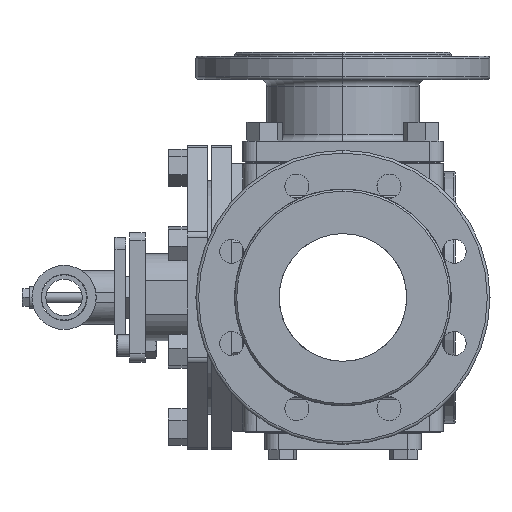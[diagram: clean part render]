
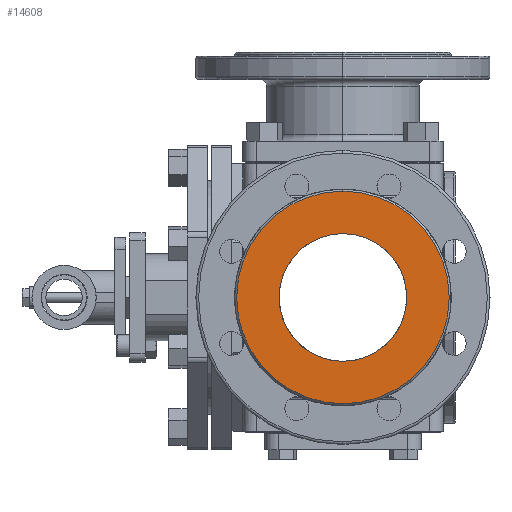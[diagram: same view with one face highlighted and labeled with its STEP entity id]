
A CAD part, left-side view. The second image highlights one B-rep face of the part: STEP entity #14608.
In plain terms, the highlighted planar face has unit normal (-1, 0, 0) as drawn and (1, 0, 0) by its records, which use the part's own axes.
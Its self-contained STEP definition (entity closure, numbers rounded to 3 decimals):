
#37 = CIRCLE ( 'NONE', #39, 79.5 ) ;
#39 = AXIS2_PLACEMENT_3D ( 'NONE', #869, #870, #871 ) ;
#40 = CIRCLE ( 'NONE', #45, 47.75 ) ;
#45 = AXIS2_PLACEMENT_3D ( 'NONE', #881, #882, #883 ) ;
#98 = AXIS2_PLACEMENT_3D ( 'NONE', #1118, #1116, #1123 ) ;
#869 = CARTESIAN_POINT ( 'NONE',  ( 81.5, 0., 0. ) ) ;
#870 = DIRECTION ( 'NONE',  ( 1., 0., 0. ) ) ;
#871 = DIRECTION ( 'NONE',  ( 0., 0., -1. ) ) ;
#881 = CARTESIAN_POINT ( 'NONE',  ( 81.5, 0., 0. ) ) ;
#882 = DIRECTION ( 'NONE',  ( -1., 0., 0. ) ) ;
#883 = DIRECTION ( 'NONE',  ( 0., 0., 1. ) ) ;
#1113 = FACE_BOUND ( 'NONE', #8030, .T. ) ;
#1116 = DIRECTION ( 'NONE',  ( 1., 0., 0. ) ) ;
#1118 = CARTESIAN_POINT ( 'NONE',  ( 81.5, 0., 0. ) ) ;
#1119 = FACE_OUTER_BOUND ( 'NONE', #8029, .T. ) ;
#1121 = PLANE ( 'NONE',  #98 ) ;
#1123 = DIRECTION ( 'NONE',  ( 0., 0., -1. ) ) ;
#1600 = EDGE_CURVE ( 'NONE', #4456, #4457, #7437, .T. ) ;
#1602 = EDGE_CURVE ( 'NONE', #4469, #4466, #7404, .T. ) ;
#3817 = ORIENTED_EDGE ( 'NONE', *, *, #1600, .T. ) ;
#3818 = ORIENTED_EDGE ( 'NONE', *, *, #14503, .T. ) ;
#3819 = ORIENTED_EDGE ( 'NONE', *, *, #1602, .T. ) ;
#3820 = ORIENTED_EDGE ( 'NONE', *, *, #14511, .T. ) ;
#4456 = VERTEX_POINT ( 'NONE', #11239 ) ;
#4457 = VERTEX_POINT ( 'NONE', #11240 ) ;
#4466 = VERTEX_POINT ( 'NONE', #11249 ) ;
#4469 = VERTEX_POINT ( 'NONE', #11252 ) ;
#7404 = CIRCLE ( 'NONE', #7547, 47.75 ) ;
#7437 = CIRCLE ( 'NONE', #7500, 79.5 ) ;
#7500 = AXIS2_PLACEMENT_3D ( 'NONE', #9424, #9425, #9426 ) ;
#7547 = AXIS2_PLACEMENT_3D ( 'NONE', #9428, #9429, #9430 ) ;
#8029 = EDGE_LOOP ( 'NONE', ( #3817, #3818 ) ) ;
#8030 = EDGE_LOOP ( 'NONE', ( #3819, #3820 ) ) ;
#9424 = CARTESIAN_POINT ( 'NONE',  ( 81.5, 0., 0. ) ) ;
#9425 = DIRECTION ( 'NONE',  ( 1., 0., 0. ) ) ;
#9426 = DIRECTION ( 'NONE',  ( 0., 0., -1. ) ) ;
#9428 = CARTESIAN_POINT ( 'NONE',  ( 81.5, 0., 0. ) ) ;
#9429 = DIRECTION ( 'NONE',  ( -1., 0., 0. ) ) ;
#9430 = DIRECTION ( 'NONE',  ( 0., 0., 1. ) ) ;
#11239 = CARTESIAN_POINT ( 'NONE',  ( 81.5, 0., 79.5 ) ) ;
#11240 = CARTESIAN_POINT ( 'NONE',  ( 81.5, 0., -79.5 ) ) ;
#11249 = CARTESIAN_POINT ( 'NONE',  ( 81.5, 0., -47.75 ) ) ;
#11252 = CARTESIAN_POINT ( 'NONE',  ( 81.5, 0., 47.75 ) ) ;
#14503 = EDGE_CURVE ( 'NONE', #4457, #4456, #37, .T. ) ;
#14511 = EDGE_CURVE ( 'NONE', #4466, #4469, #40, .T. ) ;
#14608 = ADVANCED_FACE ( 'NONE', ( #1119, #1113 ), #1121, .T. ) ;
